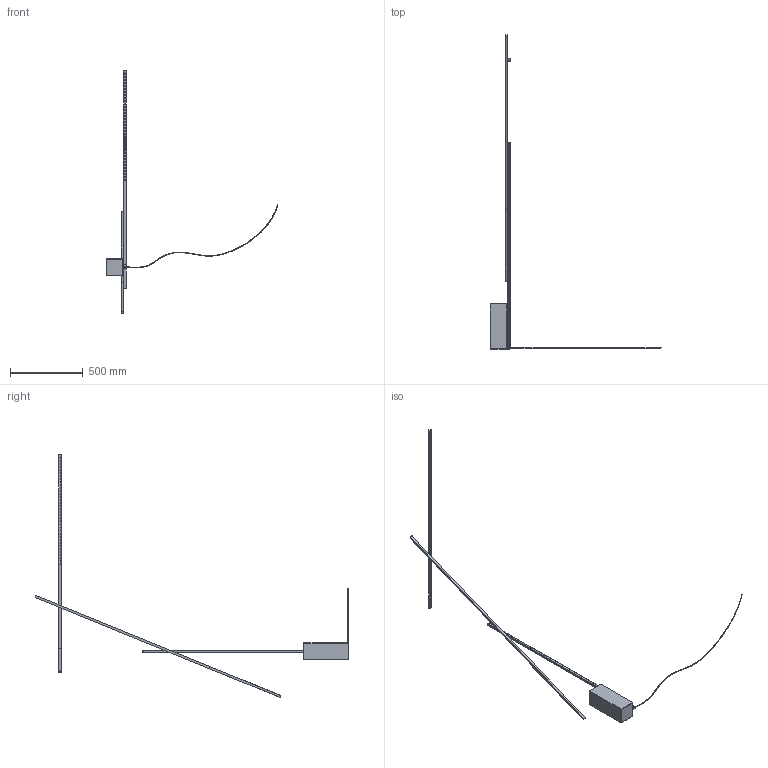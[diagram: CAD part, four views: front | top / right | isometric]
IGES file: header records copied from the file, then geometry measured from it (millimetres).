
Start section: SolidWorks IGES file using analytic representation for surfaces
Global section: file name: N:\Ingegneria\DISEGNI\PRODOTTI\CUPIDO\3D x Sito\FLMLNN21_FLAMINGO.IGS; native system: SolidWorks 2016; preprocessor: SolidWorks 2016; author: AlessandroCeppiNemo; date: 251117.165234; units: millimetre
Bounding box: 1177.54 x 2152.31 x 1666.01 mm (x, y, z)
Surface area: 539551.5 mm2 (no closed solid volume)
Topology: 0 solids, 0 shells, 393 faces, 4737 edges, 4729 vertices
Faces by surface type: bspline 251, revolution 142
